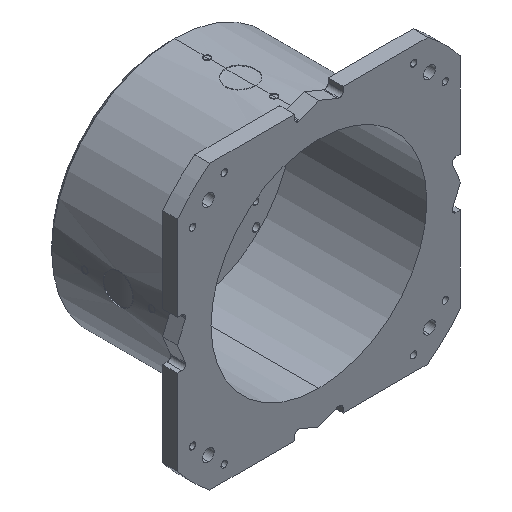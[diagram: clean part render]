
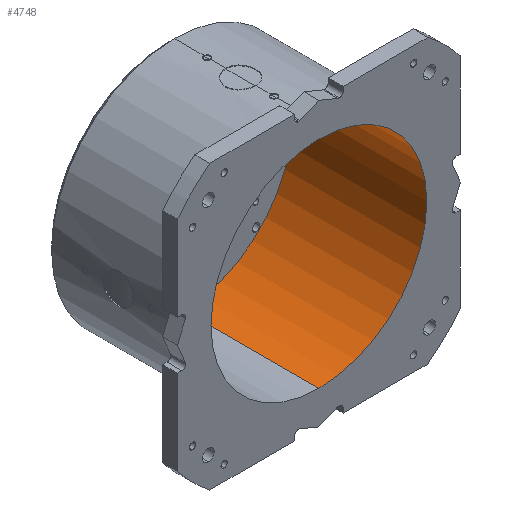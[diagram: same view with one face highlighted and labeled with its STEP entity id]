
A CAD part, isometric view. The second image highlights one B-rep face of the part: STEP entity #4748.
In plain terms, the highlighted cylindrical face has radius 145 mm (diameter 290 mm), a partial arc.
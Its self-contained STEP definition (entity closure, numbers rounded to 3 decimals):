
#83 = CARTESIAN_POINT ( 'NONE',  ( 0., 0., -145. ) ) ;
#205 = LINE ( 'NONE', #2594, #1461 ) ;
#403 = CARTESIAN_POINT ( 'NONE',  ( 0., 182., -145. ) ) ;
#408 = CYLINDRICAL_SURFACE ( 'NONE', #5444, 145. ) ;
#446 = DIRECTION ( 'NONE',  ( 0., 1., 0. ) ) ;
#749 = ORIENTED_EDGE ( 'NONE', *, *, #1383, .T. ) ;
#868 = DIRECTION ( 'NONE',  ( 0., 0., 1. ) ) ;
#1383 = EDGE_CURVE ( 'NONE', #3475, #1629, #3280, .T. ) ;
#1461 = VECTOR ( 'NONE', #4982, 1000. ) ;
#1625 = CARTESIAN_POINT ( 'NONE',  ( 0., 0., -145. ) ) ;
#1629 = VERTEX_POINT ( 'NONE', #403 ) ;
#1751 = VERTEX_POINT ( 'NONE', #83 ) ;
#2594 = CARTESIAN_POINT ( 'NONE',  ( 0., 0., 145. ) ) ;
#2630 = CARTESIAN_POINT ( 'NONE',  ( 0., 0., 0. ) ) ;
#2825 = FACE_OUTER_BOUND ( 'NONE', #3603, .T. ) ;
#3083 = AXIS2_PLACEMENT_3D ( 'NONE', #2630, #7444, #868 ) ;
#3118 = VERTEX_POINT ( 'NONE', #4420 ) ;
#3263 = ORIENTED_EDGE ( 'NONE', *, *, #6381, .F. ) ;
#3280 = CIRCLE ( 'NONE', #5784, 145. ) ;
#3475 = VERTEX_POINT ( 'NONE', #5557 ) ;
#3603 = EDGE_LOOP ( 'NONE', ( #3263, #4942, #7466, #749 ) ) ;
#3710 = DIRECTION ( 'NONE',  ( 0., 1., 0. ) ) ;
#4420 = CARTESIAN_POINT ( 'NONE',  ( 0., 0., 145. ) ) ;
#4621 = EDGE_CURVE ( 'NONE', #3118, #3475, #205, .T. ) ;
#4638 = DIRECTION ( 'NONE',  ( 0., 1., 0. ) ) ;
#4748 = ADVANCED_FACE ( 'NONE', ( #2825 ), #408, .F. ) ;
#4942 = ORIENTED_EDGE ( 'NONE', *, *, #5322, .F. ) ;
#4982 = DIRECTION ( 'NONE',  ( 0., 1., 0. ) ) ;
#5290 = LINE ( 'NONE', #1625, #7344 ) ;
#5322 = EDGE_CURVE ( 'NONE', #3118, #1751, #5702, .T. ) ;
#5444 = AXIS2_PLACEMENT_3D ( 'NONE', #6403, #446, #7721 ) ;
#5557 = CARTESIAN_POINT ( 'NONE',  ( 0., 182., 145. ) ) ;
#5702 = CIRCLE ( 'NONE', #3083, 145. ) ;
#5784 = AXIS2_PLACEMENT_3D ( 'NONE', #6218, #3710, #6100 ) ;
#6100 = DIRECTION ( 'NONE',  ( 0., 0., 1. ) ) ;
#6218 = CARTESIAN_POINT ( 'NONE',  ( 0., 182., 0. ) ) ;
#6381 = EDGE_CURVE ( 'NONE', #1751, #1629, #5290, .T. ) ;
#6403 = CARTESIAN_POINT ( 'NONE',  ( 0., 0., 0. ) ) ;
#7344 = VECTOR ( 'NONE', #4638, 1000. ) ;
#7444 = DIRECTION ( 'NONE',  ( 0., 1., 0. ) ) ;
#7466 = ORIENTED_EDGE ( 'NONE', *, *, #4621, .T. ) ;
#7721 = DIRECTION ( 'NONE',  ( 0., 0., 1. ) ) ;
